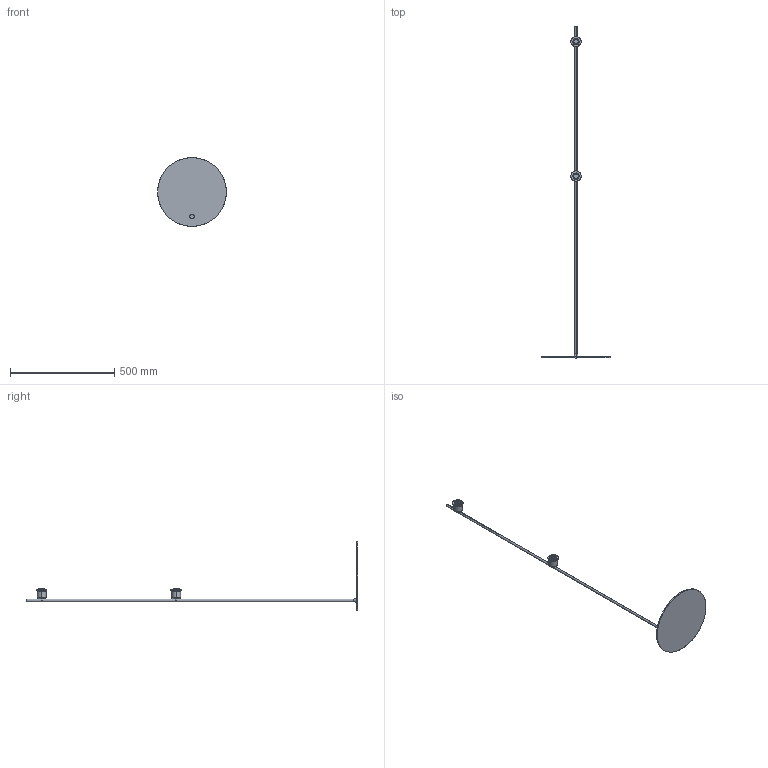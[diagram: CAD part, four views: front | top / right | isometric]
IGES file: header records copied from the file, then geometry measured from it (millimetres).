
Start section: SolidWorks IGES file using analytic representation for surfaces
Global section: file name: C:\Users\danielet\Desktop\ISMAIL\EXCEL\PAMELA-H3913-3D\PAMELA-H3913-3D.IGS; native system: SolidWorks 2018; preprocessor: SolidWorks 2018; author: danielet; date: 230327.105920; units: millimetre
Bounding box: 330 x 1592 x 330 mm (x, y, z)
Surface area: 265604 mm2 (no closed solid volume)
Topology: 0 solids, 0 shells, 169 faces, 3582 edges, 3582 vertices
Faces by surface type: revolution 124, bspline 45
